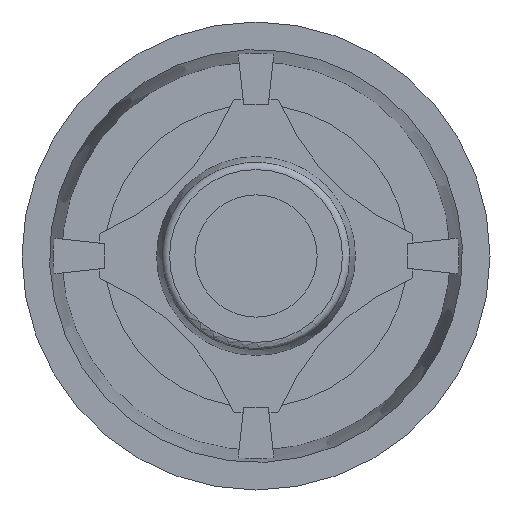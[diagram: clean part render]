
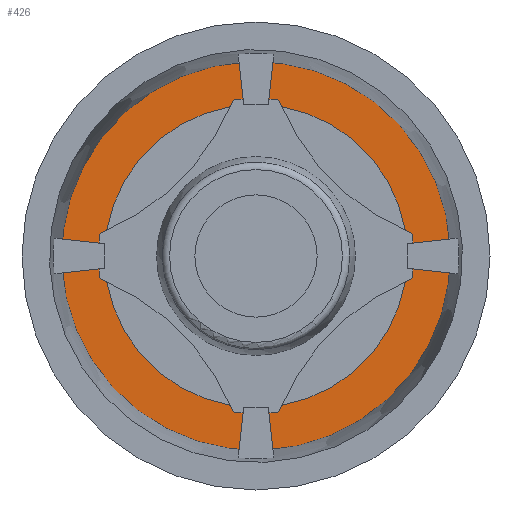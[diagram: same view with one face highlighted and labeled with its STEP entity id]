
A CAD part, front view. The second image highlights one B-rep face of the part: STEP entity #426.
In plain terms, the highlighted planar face has unit normal (0, -1, 0).
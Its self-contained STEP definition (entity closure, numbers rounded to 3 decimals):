
#426=ADVANCED_FACE('',(#8399,#8401),#8403,.T.);
#8399=FACE_BOUND('',#8400,.T.);
#8400=EDGE_LOOP('',(#17414));
#8401=FACE_BOUND('',#8402,.T.);
#8402=EDGE_LOOP('',(#17415));
#8403=PLANE('',#8404);
#8404=AXIS2_PLACEMENT_3D('',#8405,#8406,#8407);
#8405=CARTESIAN_POINT('',(3666.032,1523.422,255.81));
#8406=DIRECTION('',(0.,-1.,0.));
#8407=DIRECTION('',(0.,0.,-1.));
#17414=ORIENTED_EDGE('',*,*,#22532,.T.);
#17415=ORIENTED_EDGE('',*,*,#22533,.F.);
#22532=EDGE_CURVE('',#26040,#26040,#26041,.T.);
#22533=EDGE_CURVE('',#26042,#26042,#26043,.T.);
#26040=VERTEX_POINT('',#34167);
#26041=CIRCLE('',#34168,63.546);
#26042=VERTEX_POINT('',#34172);
#26043=CIRCLE('',#34173,42.5);
#34167=CARTESIAN_POINT('',(3772.016,1523.422,258.61));
#34168=AXIS2_PLACEMENT_3D('',#34169,#34170,#34171);
#34169=CARTESIAN_POINT('',(3708.532,1523.422,255.81));
#34170=DIRECTION('',(0.,-1.,0.));
#34171=DIRECTION('',(-1.,0.,0.));
#34172=CARTESIAN_POINT('',(3751.032,1523.422,255.81));
#34173=AXIS2_PLACEMENT_3D('',#34174,#34175,#34176);
#34174=CARTESIAN_POINT('',(3708.532,1523.422,255.81));
#34175=DIRECTION('',(0.,-1.,0.));
#34176=DIRECTION('',(-1.,0.,0.));
